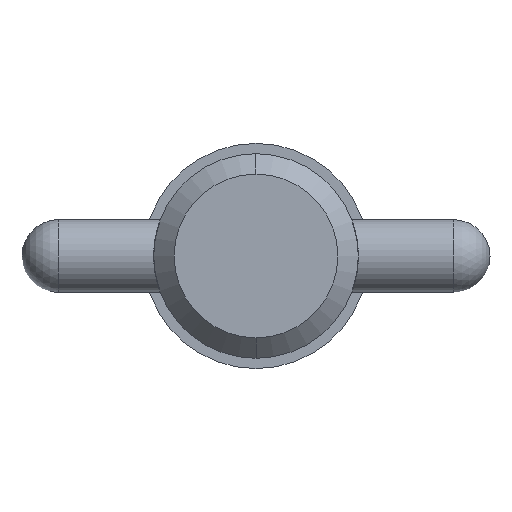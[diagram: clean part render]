
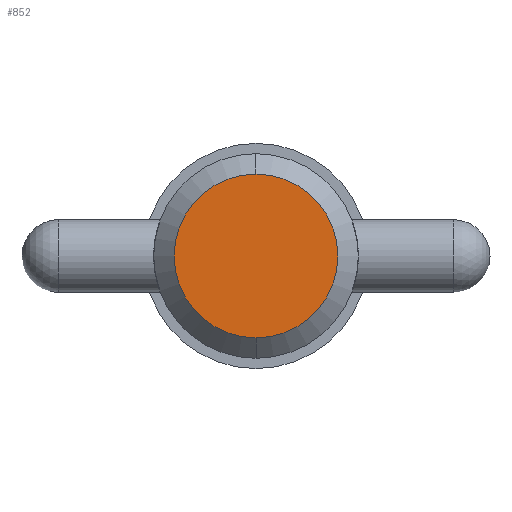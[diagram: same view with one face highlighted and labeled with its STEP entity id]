
A CAD part, left-side view. The second image highlights one B-rep face of the part: STEP entity #852.
In plain terms, the highlighted planar face has unit normal (-1, 0, 0).
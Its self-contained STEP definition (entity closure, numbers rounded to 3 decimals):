
#49 = EDGE_CURVE ( 'NONE', #380, #146, #658, .T. ) ;
#76 = DIRECTION ( 'NONE',  ( 1., 0., 0. ) ) ;
#146 = VERTEX_POINT ( 'NONE', #452 ) ;
#154 = CARTESIAN_POINT ( 'NONE',  ( 0., 0., 0. ) ) ;
#300 = CARTESIAN_POINT ( 'NONE',  ( 0., 0., -4.444 ) ) ;
#341 = FACE_OUTER_BOUND ( 'NONE', #375, .T. ) ;
#363 = CARTESIAN_POINT ( 'NONE',  ( 0., 0., 0. ) ) ;
#375 = EDGE_LOOP ( 'NONE', ( #511, #585 ) ) ;
#380 = VERTEX_POINT ( 'NONE', #300 ) ;
#444 = DIRECTION ( 'NONE',  ( -1., 0., 0. ) ) ;
#452 = CARTESIAN_POINT ( 'NONE',  ( 0., 0., 4.444 ) ) ;
#458 = CARTESIAN_POINT ( 'NONE',  ( 0., 0., 0. ) ) ;
#511 = ORIENTED_EDGE ( 'NONE', *, *, #49, .F. ) ;
#513 = PLANE ( 'NONE',  #1006 ) ;
#585 = ORIENTED_EDGE ( 'NONE', *, *, #590, .F. ) ;
#590 = EDGE_CURVE ( 'NONE', #146, #380, #798, .T. ) ;
#597 = DIRECTION ( 'NONE',  ( 0., 0., -1. ) ) ;
#605 = DIRECTION ( 'NONE',  ( 0., 0., 1. ) ) ;
#658 = CIRCLE ( 'NONE', #687, 4.444 ) ;
#687 = AXIS2_PLACEMENT_3D ( 'NONE', #458, #845, #597 ) ;
#741 = AXIS2_PLACEMENT_3D ( 'NONE', #154, #76, #863 ) ;
#798 = CIRCLE ( 'NONE', #741, 4.444 ) ;
#845 = DIRECTION ( 'NONE',  ( 1., 0., 0. ) ) ;
#852 = ADVANCED_FACE ( 'NONE', ( #341 ), #513, .T. ) ;
#863 = DIRECTION ( 'NONE',  ( 0., 0., -1. ) ) ;
#1006 = AXIS2_PLACEMENT_3D ( 'NONE', #363, #444, #605 ) ;
